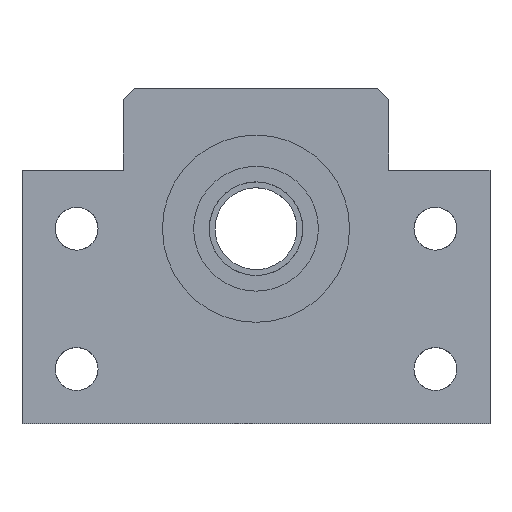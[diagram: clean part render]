
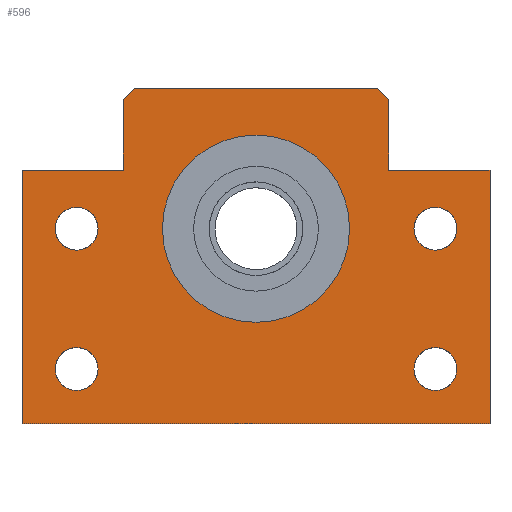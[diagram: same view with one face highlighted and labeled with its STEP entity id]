
A CAD part, left-side view. The second image highlights one B-rep face of the part: STEP entity #596.
In plain terms, the highlighted planar face has unit normal (-1, 0, 0).
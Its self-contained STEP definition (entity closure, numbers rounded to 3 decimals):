
#196=LINE('',#3923,#274);
#199=LINE('',#4089,#277);
#202=LINE('',#4104,#280);
#205=LINE('',#4113,#283);
#208=LINE('',#4119,#286);
#211=LINE('',#4125,#289);
#214=LINE('',#4131,#292);
#217=LINE('',#4137,#295);
#220=LINE('',#4143,#298);
#224=LINE('',#4810,#302);
#274=VECTOR('',#2622,1.);
#277=VECTOR('',#2641,1.);
#280=VECTOR('',#2658,1.);
#283=VECTOR('',#2667,1.);
#286=VECTOR('',#2672,1.);
#289=VECTOR('',#2677,1.);
#292=VECTOR('',#2682,1.);
#295=VECTOR('',#2687,1.);
#298=VECTOR('',#2692,1.);
#302=VECTOR('',#2790,1.);
#488=PLANE('',#2328);
#596=ADVANCED_FACE('',(#838,#839,#840,#841,#842,#843),#488,.F.);
#838=FACE_BOUND('',#1074,.T.);
#839=FACE_BOUND('',#1075,.T.);
#840=FACE_BOUND('',#1076,.T.);
#841=FACE_BOUND('',#1077,.T.);
#842=FACE_BOUND('',#1078,.T.);
#843=FACE_BOUND('',#1079,.T.);
#1074=EDGE_LOOP('',(#1459,#1460,#1461,#1462,#1463,#1464,#1465,#1466,#1467,
#1468));
#1075=EDGE_LOOP('',(#1469));
#1076=EDGE_LOOP('',(#1470));
#1077=EDGE_LOOP('',(#1471));
#1078=EDGE_LOOP('',(#1472));
#1079=EDGE_LOOP('',(#1473));
#1459=ORIENTED_EDGE('',*,*,#1909,.F.);
#1460=ORIENTED_EDGE('',*,*,#1978,.F.);
#1461=ORIENTED_EDGE('',*,*,#1944,.F.);
#1462=ORIENTED_EDGE('',*,*,#1941,.F.);
#1463=ORIENTED_EDGE('',*,*,#1938,.F.);
#1464=ORIENTED_EDGE('',*,*,#1935,.F.);
#1465=ORIENTED_EDGE('',*,*,#1932,.F.);
#1466=ORIENTED_EDGE('',*,*,#1929,.F.);
#1467=ORIENTED_EDGE('',*,*,#1925,.F.);
#1468=ORIENTED_EDGE('',*,*,#1919,.F.);
#1469=ORIENTED_EDGE('',*,*,#1950,.T.);
#1470=ORIENTED_EDGE('',*,*,#1907,.T.);
#1471=ORIENTED_EDGE('',*,*,#1906,.T.);
#1472=ORIENTED_EDGE('',*,*,#1952,.T.);
#1473=ORIENTED_EDGE('',*,*,#1954,.T.);
#1700=VERTEX_POINT('',#3915);
#1701=VERTEX_POINT('',#3918);
#1702=VERTEX_POINT('',#3921);
#1704=VERTEX_POINT('',#3924);
#1713=VERTEX_POINT('',#4090);
#1718=VERTEX_POINT('',#4105);
#1721=VERTEX_POINT('',#4114);
#1723=VERTEX_POINT('',#4120);
#1725=VERTEX_POINT('',#4126);
#1727=VERTEX_POINT('',#4132);
#1729=VERTEX_POINT('',#4138);
#1731=VERTEX_POINT('',#4144);
#1736=VERTEX_POINT('',#4156);
#1738=VERTEX_POINT('',#4233);
#1740=VERTEX_POINT('',#4310);
#1906=EDGE_CURVE('GENERATED CIRCLE',#1700,#1700,#2096,.T.);
#1907=EDGE_CURVE('GENERATED CIRCLE',#1701,#1701,#2097,.T.);
#1909=EDGE_CURVE('LINE',#1702,#1704,#196,.T.);
#1919=EDGE_CURVE('LINE',#1704,#1713,#199,.T.);
#1925=EDGE_CURVE('LINE',#1713,#1718,#202,.T.);
#1929=EDGE_CURVE('LINE',#1718,#1721,#205,.T.);
#1932=EDGE_CURVE('LINE',#1721,#1723,#208,.T.);
#1935=EDGE_CURVE('LINE',#1723,#1725,#211,.T.);
#1938=EDGE_CURVE('LINE',#1725,#1727,#214,.T.);
#1941=EDGE_CURVE('LINE',#1727,#1729,#217,.T.);
#1944=EDGE_CURVE('LINE',#1729,#1731,#220,.T.);
#1950=EDGE_CURVE('GENERATED CIRCLE',#1736,#1736,#2110,.T.);
#1952=EDGE_CURVE('GENERATED CIRCLE',#1738,#1738,#2111,.T.);
#1954=EDGE_CURVE('GENERATED CIRCLE',#1740,#1740,#2112,.T.);
#1978=EDGE_CURVE('LINE',#1731,#1702,#224,.T.);
#2096=CIRCLE('',#2253,2.75);
#2097=CIRCLE('',#2255,2.75);
#2110=CIRCLE('',#2284,12.);
#2111=CIRCLE('',#2286,2.75);
#2112=CIRCLE('',#2288,2.75);
#2253=AXIS2_PLACEMENT_3D('',#3914,#2613,#2614);
#2255=AXIS2_PLACEMENT_3D('',#3917,#2617,#2618);
#2284=AXIS2_PLACEMENT_3D('',#4155,#2703,#2704);
#2286=AXIS2_PLACEMENT_3D('',#4232,#2707,#2708);
#2288=AXIS2_PLACEMENT_3D('',#4309,#2711,#2712);
#2328=AXIS2_PLACEMENT_3D('',#4812,#2793,#2794);
#2613=DIRECTION('',(1.,0.,0.));
#2614=DIRECTION('',(0.,0.,-1.));
#2617=DIRECTION('',(1.,0.,0.));
#2618=DIRECTION('',(0.,0.,-1.));
#2622=DIRECTION('',(0.,1.,0.));
#2641=DIRECTION('',(0.,0.,1.));
#2658=DIRECTION('',(0.,-1.,0.));
#2667=DIRECTION('',(0.,0.,1.));
#2672=DIRECTION('',(0.,-0.707,0.707));
#2677=DIRECTION('',(0.,-1.,0.));
#2682=DIRECTION('',(0.,-0.707,-0.707));
#2687=DIRECTION('',(0.,0.,-1.));
#2692=DIRECTION('',(0.,-1.,0.));
#2703=DIRECTION('',(1.,0.,0.));
#2704=DIRECTION('',(0.,0.,-1.));
#2707=DIRECTION('',(1.,0.,0.));
#2708=DIRECTION('',(0.,0.,-1.));
#2711=DIRECTION('',(1.,0.,0.));
#2712=DIRECTION('',(0.,0.,-1.));
#2790=DIRECTION('',(0.,0.,-1.));
#2793=DIRECTION('',(1.,0.,0.));
#2794=DIRECTION('',(0.,-1.,0.));
#3914=CARTESIAN_POINT('',(-12.5,23.,25.));
#3915=CARTESIAN_POINT('',(-12.5,23.,22.25));
#3917=CARTESIAN_POINT('',(-12.5,23.,7.));
#3918=CARTESIAN_POINT('',(-12.5,23.,4.25));
#3921=CARTESIAN_POINT('',(-12.5,-30.,0.));
#3923=CARTESIAN_POINT('',(-12.5,0.,0.));
#3924=CARTESIAN_POINT('',(-12.5,30.,0.));
#4089=CARTESIAN_POINT('',(-12.5,30.,16.25));
#4090=CARTESIAN_POINT('',(-12.5,30.,32.5));
#4104=CARTESIAN_POINT('',(-12.5,23.5,32.5));
#4105=CARTESIAN_POINT('',(-12.5,17.,32.5));
#4113=CARTESIAN_POINT('',(-12.5,17.,37.043));
#4114=CARTESIAN_POINT('',(-12.5,17.,41.586));
#4119=CARTESIAN_POINT('',(-12.5,16.293,42.293));
#4120=CARTESIAN_POINT('',(-12.5,15.586,43.));
#4125=CARTESIAN_POINT('',(-12.5,0.,43.));
#4126=CARTESIAN_POINT('',(-12.5,-15.586,43.));
#4131=CARTESIAN_POINT('',(-12.5,-16.293,42.293));
#4132=CARTESIAN_POINT('',(-12.5,-17.,41.586));
#4137=CARTESIAN_POINT('',(-12.5,-17.,37.043));
#4138=CARTESIAN_POINT('',(-12.5,-17.,32.5));
#4143=CARTESIAN_POINT('',(-12.5,-23.5,32.5));
#4144=CARTESIAN_POINT('',(-12.5,-30.,32.5));
#4155=CARTESIAN_POINT('',(-12.5,0.,25.));
#4156=CARTESIAN_POINT('',(-12.5,0.,13.));
#4232=CARTESIAN_POINT('',(-12.5,-23.,25.));
#4233=CARTESIAN_POINT('',(-12.5,-23.,22.25));
#4309=CARTESIAN_POINT('',(-12.5,-23.,7.));
#4310=CARTESIAN_POINT('',(-12.5,-23.,4.25));
#4810=CARTESIAN_POINT('',(-12.5,-30.,16.25));
#4812=CARTESIAN_POINT('',(-12.5,0.,0.));
